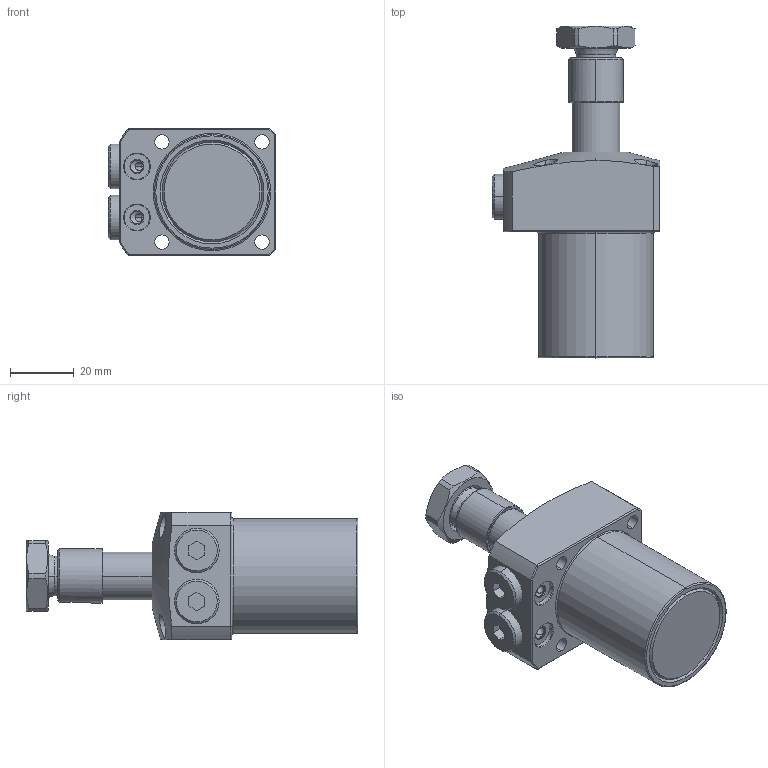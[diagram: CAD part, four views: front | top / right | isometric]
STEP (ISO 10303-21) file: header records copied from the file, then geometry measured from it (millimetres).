
FILE_DESCRIPTION(/* description */ (''),/* implementation_level */ '2;1');
FILE_NAME(/* name */ 'KTRC36-L.stp',/* time_stamp */ '2022-11-17T14:33:17+08:00',/* author */ (''),/* organization */ (''),/* preprocessor_version */ 'ST-DEVELOPER v16.7',/* originating_system */ 'SIEMENS PLM Software NX 12.0',/* authorisation */ '');
FILE_SCHEMA (('AP203_CONFIGURATION_CONTROLLED_3D_DESIGN_OF_MECHANICAL_PARTS_AND_ASSEMBLIES_MIM_LF { 1 0 10303 403 2 1 2}'));
Length unit declared in the file: millimetre
Products named in the file (6): KTRC36-L-03; KTRC36-L-02; KTRC36-L-01; KTRC36-L-05; KTRC36-L-04; LHA0360-CL_step
Assembly tree (6 placements, depth 2):
  LHA0360-CL_step
    KTRC36-L-04
    KTRC36-L-05  x2
    KTRC36-L-01
    KTRC36-L-02
    KTRC36-L-03
Bounding box: 52.5 x 104 x 40 mm (x, y, z)
Volume: 91032.7 mm3; surface area: 20633.4 mm2
Topology: 6 solids, 6 shells, 225 faces, 543 edges, 341 vertices
Faces by surface type: cylinder 81, plane 74, cone 49, torus 19, sphere 2
Entity records: 7738 total; most frequent: CARTESIAN_POINT 2057, DIRECTION 1070, ORIENTED_EDGE 1026, EDGE_CURVE 513, AXIS2_PLACEMENT_3D 436, VERTEX_POINT 323, EDGE_LOOP 238, CIRCLE 217
